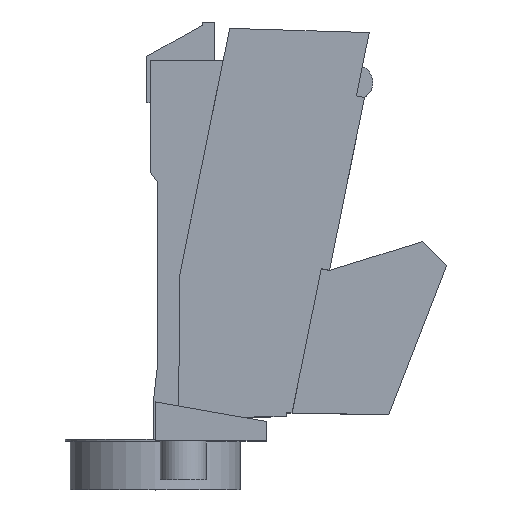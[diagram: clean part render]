
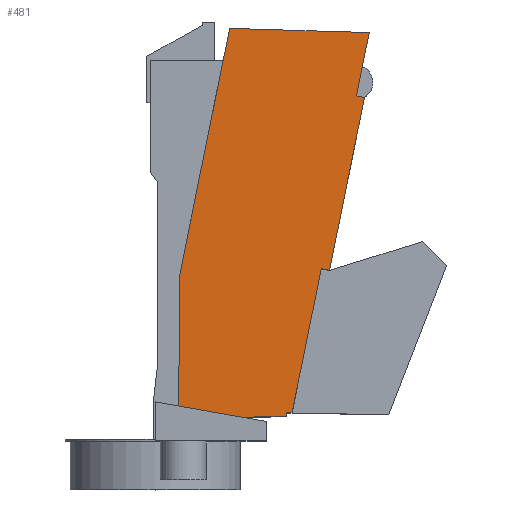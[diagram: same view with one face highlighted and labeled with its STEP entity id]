
A CAD part, top view. The second image highlights one B-rep face of the part: STEP entity #481.
In plain terms, the highlighted planar face has unit normal (0, 0, 1).
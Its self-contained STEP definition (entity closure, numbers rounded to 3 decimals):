
#21 = AXIS2_PLACEMENT_3D ( 'NONE', #1643, #1649, #1650 ) ;
#103 = AXIS2_PLACEMENT_3D ( 'NONE', #1346, #1339, #1337 ) ;
#173 = EDGE_CURVE ( 'NONE', #1265, #1335, #761, .T. ) ;
#174 = EDGE_CURVE ( 'NONE', #1236, #1257, #737, .T. ) ;
#175 = EDGE_CURVE ( 'NONE', #1257, #1241, #723, .T. ) ;
#176 = EDGE_CURVE ( 'NONE', #1345, #1265, #719, .T. ) ;
#177 = EDGE_CURVE ( 'NONE', #1345, #1294, #726, .T. ) ;
#178 = EDGE_CURVE ( 'NONE', #1335, #1236, #718, .T. ) ;
#179 = EDGE_CURVE ( 'NONE', #1241, #1264, #716, .T. ) ;
#180 = EDGE_CURVE ( 'NONE', #1212, #1264, #714, .T. ) ;
#181 = EDGE_CURVE ( 'NONE', #1254, #1212, #712, .T. ) ;
#182 = EDGE_CURVE ( 'NONE', #1254, #1331, #710, .T. ) ;
#183 = EDGE_CURVE ( 'NONE', #1331, #1272, #708, .T. ) ;
#184 = EDGE_CURVE ( 'NONE', #1272, #1206, #706, .T. ) ;
#185 = EDGE_CURVE ( 'NONE', #1206, #1294, #704, .T. ) ;
#305 = FACE_OUTER_BOUND ( 'NONE', #849, .T. ) ;
#481 = ADVANCED_FACE ( 'NONE', ( #305 ), #1640, .F. ) ;
#703 = VECTOR ( 'NONE', #1310, 1000. ) ;
#704 = LINE ( 'NONE', #1312, #703 ) ;
#705 = VECTOR ( 'NONE', #1313, 1000. ) ;
#706 = LINE ( 'NONE', #1314, #705 ) ;
#707 = VECTOR ( 'NONE', #1316, 1000. ) ;
#708 = LINE ( 'NONE', #1317, #707 ) ;
#709 = VECTOR ( 'NONE', #1319, 1000. ) ;
#710 = LINE ( 'NONE', #1321, #709 ) ;
#711 = VECTOR ( 'NONE', #1323, 1000. ) ;
#712 = LINE ( 'NONE', #1324, #711 ) ;
#713 = VECTOR ( 'NONE', #1327, 1000. ) ;
#714 = LINE ( 'NONE', #1328, #713 ) ;
#715 = VECTOR ( 'NONE', #1329, 1000. ) ;
#716 = LINE ( 'NONE', #1330, #715 ) ;
#717 = VECTOR ( 'NONE', #1332, 1000. ) ;
#718 = LINE ( 'NONE', #1333, #717 ) ;
#719 = CIRCLE ( 'NONE', #103, 3. ) ;
#722 = VECTOR ( 'NONE', #1341, 1000. ) ;
#723 = LINE ( 'NONE', #1342, #722 ) ;
#725 = VECTOR ( 'NONE', #1344, 1000. ) ;
#726 = LINE ( 'NONE', #1336, #730 ) ;
#727 = VECTOR ( 'NONE', #1347, 1000. ) ;
#730 = VECTOR ( 'NONE', #1334, 1000. ) ;
#737 = LINE ( 'NONE', #1350, #725 ) ;
#761 = LINE ( 'NONE', #1356, #727 ) ;
#849 = EDGE_LOOP ( 'NONE', ( #2069, #2070, #2067, #2066, #2065, #2064, #2063, #2062, #2060, #2061, #2059, #2058, #2057 ) ) ;
#1206 = VERTEX_POINT ( 'NONE', #1680 ) ;
#1212 = VERTEX_POINT ( 'NONE', #1682 ) ;
#1236 = VERTEX_POINT ( 'NONE', #1690 ) ;
#1241 = VERTEX_POINT ( 'NONE', #1692 ) ;
#1254 = VERTEX_POINT ( 'NONE', #1696 ) ;
#1257 = VERTEX_POINT ( 'NONE', #1697 ) ;
#1264 = VERTEX_POINT ( 'NONE', #1700 ) ;
#1265 = VERTEX_POINT ( 'NONE', #1701 ) ;
#1272 = VERTEX_POINT ( 'NONE', #1702 ) ;
#1294 = VERTEX_POINT ( 'NONE', #1709 ) ;
#1310 = DIRECTION ( 'NONE',  ( -0.009, -1., 0. ) ) ;
#1312 = CARTESIAN_POINT ( 'NONE',  ( 10.52, 34.28, 12.1 ) ) ;
#1313 = DIRECTION ( 'NONE',  ( -0.199, -0.98, 0. ) ) ;
#1314 = CARTESIAN_POINT ( 'NONE',  ( 20.765, 84.771, 12.1 ) ) ;
#1316 = DIRECTION ( 'NONE',  ( -1., 0.03, 0. ) ) ;
#1317 = CARTESIAN_POINT ( 'NONE',  ( 49.433, 83.91, 12.1 ) ) ;
#1319 = DIRECTION ( 'NONE',  ( 0.199, 0.98, 0. ) ) ;
#1321 = CARTESIAN_POINT ( 'NONE',  ( 48.023, 76.962, 12.1 ) ) ;
#1323 = DIRECTION ( 'NONE',  ( 0.98, -0.199, 0. ) ) ;
#1324 = CARTESIAN_POINT ( 'NONE',  ( 10.961, 78.159, 12.1 ) ) ;
#1327 = DIRECTION ( 'NONE',  ( -0.199, -0.98, 0. ) ) ;
#1328 = CARTESIAN_POINT ( 'NONE',  ( 41.255, 35.057, 12.1 ) ) ;
#1329 = DIRECTION ( 'NONE',  ( 0.98, -0.199, 0. ) ) ;
#1330 = CARTESIAN_POINT ( 'NONE',  ( 3.759, 42.665, 12.1 ) ) ;
#1331 = VERTEX_POINT ( 'NONE', #1722 ) ;
#1332 = DIRECTION ( 'NONE',  ( 0., 1., 0. ) ) ;
#1333 = CARTESIAN_POINT ( 'NONE',  ( 32.38, 5.02, 12.1 ) ) ;
#1334 = DIRECTION ( 'NONE',  ( -0.985, 0.174, 0. ) ) ;
#1335 = VERTEX_POINT ( 'NONE', #1723 ) ;
#1336 = CARTESIAN_POINT ( 'NONE',  ( 24.324, 4.692, 12.1 ) ) ;
#1337 = DIRECTION ( 'NONE',  ( -1., 0., 0. ) ) ;
#1339 = DIRECTION ( 'NONE',  ( 0., 0., -1. ) ) ;
#1341 = DIRECTION ( 'NONE',  ( 0.199, 0.98, 0. ) ) ;
#1342 = CARTESIAN_POINT ( 'NONE',  ( 48.023, 76.962, 12.1 ) ) ;
#1344 = DIRECTION ( 'NONE',  ( 1., -0.017, 0. ) ) ;
#1345 = VERTEX_POINT ( 'NONE', #1727 ) ;
#1346 = CARTESIAN_POINT ( 'NONE',  ( 23.835, 1.92, 12.1 ) ) ;
#1347 = DIRECTION ( 'NONE',  ( 1., 0.012, 0. ) ) ;
#1350 = CARTESIAN_POINT ( 'NONE',  ( 32.38, 5.786, 12.1 ) ) ;
#1356 = CARTESIAN_POINT ( 'NONE',  ( 23.8, 4.92, 12.1 ) ) ;
#1640 = PLANE ( 'NONE',  #21 ) ;
#1643 = CARTESIAN_POINT ( 'NONE',  ( 23.835, 1.92, 12.1 ) ) ;
#1649 = DIRECTION ( 'NONE',  ( 0., 0., -1. ) ) ;
#1650 = DIRECTION ( 'NONE',  ( -1., 0., 0. ) ) ;
#1680 = CARTESIAN_POINT ( 'NONE',  ( 10.52, 34.28, 12.1 ) ) ;
#1682 = CARTESIAN_POINT ( 'NONE',  ( 48.457, 70.551, 12.1 ) ) ;
#1690 = CARTESIAN_POINT ( 'NONE',  ( 32.38, 5.786, 12.1 ) ) ;
#1692 = CARTESIAN_POINT ( 'NONE',  ( 39.589, 35.395, 12.1 ) ) ;
#1696 = CARTESIAN_POINT ( 'NONE',  ( 46.791, 70.889, 12.1 ) ) ;
#1697 = CARTESIAN_POINT ( 'NONE',  ( 33.577, 5.765, 12.1 ) ) ;
#1700 = CARTESIAN_POINT ( 'NONE',  ( 41.255, 35.057, 12.1 ) ) ;
#1701 = CARTESIAN_POINT ( 'NONE',  ( 23.8, 4.92, 12.1 ) ) ;
#1702 = CARTESIAN_POINT ( 'NONE',  ( 20.765, 84.771, 12.1 ) ) ;
#1709 = CARTESIAN_POINT ( 'NONE',  ( 10.279, 7.169, 12.1 ) ) ;
#1722 = CARTESIAN_POINT ( 'NONE',  ( 49.433, 83.91, 12.1 ) ) ;
#1723 = CARTESIAN_POINT ( 'NONE',  ( 32.38, 5.02, 12.1 ) ) ;
#1727 = CARTESIAN_POINT ( 'NONE',  ( 23.302, 4.872, 12.1 ) ) ;
#2057 = ORIENTED_EDGE ( 'NONE', *, *, #185, .T. ) ;
#2058 = ORIENTED_EDGE ( 'NONE', *, *, #184, .T. ) ;
#2059 = ORIENTED_EDGE ( 'NONE', *, *, #183, .T. ) ;
#2060 = ORIENTED_EDGE ( 'NONE', *, *, #181, .F. ) ;
#2061 = ORIENTED_EDGE ( 'NONE', *, *, #182, .T. ) ;
#2062 = ORIENTED_EDGE ( 'NONE', *, *, #180, .F. ) ;
#2063 = ORIENTED_EDGE ( 'NONE', *, *, #179, .T. ) ;
#2064 = ORIENTED_EDGE ( 'NONE', *, *, #175, .T. ) ;
#2065 = ORIENTED_EDGE ( 'NONE', *, *, #174, .T. ) ;
#2066 = ORIENTED_EDGE ( 'NONE', *, *, #178, .T. ) ;
#2067 = ORIENTED_EDGE ( 'NONE', *, *, #173, .T. ) ;
#2069 = ORIENTED_EDGE ( 'NONE', *, *, #177, .F. ) ;
#2070 = ORIENTED_EDGE ( 'NONE', *, *, #176, .T. ) ;
